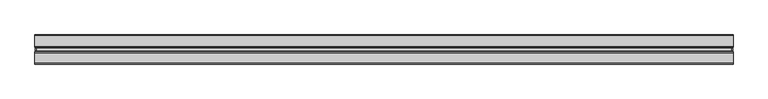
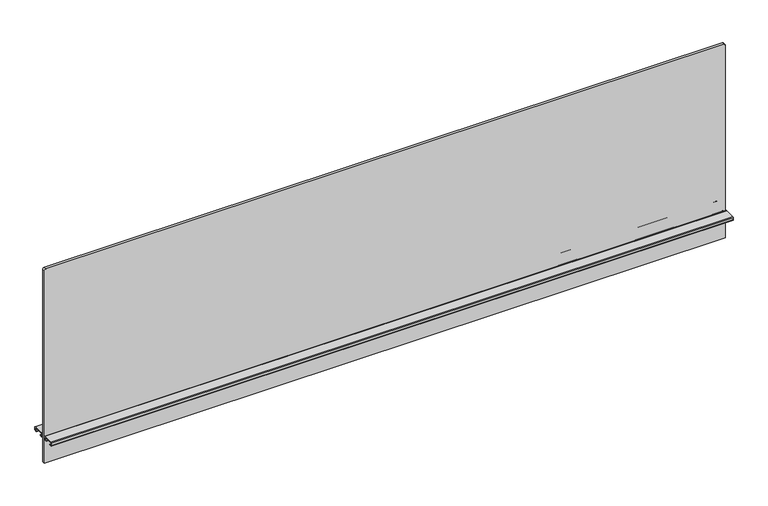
"""IFC4 building model written with IfcOpenShell, lengths in millimetres: furniture geometry, Steelcase - Answer Solution - Panel - Frameless Glass Screen - Recessed : 18H x 72W."""

from ifc_helpers import new_model, si_unit, point, frame, frame_2d, origin, place, context, project, spatial, polyline, circle_curve, trimmed, segment, composite_curve, outline, extrude, source, transform, mapped, element, save


def furniture_66b91132(model_context):
    return source(origin(), model_context, "Body", "SweptSolid", [
        extrude(outline(composite_curve([segment(polyline([(1213.967613, 909.32), (1213.967613, -909.32)]), True, "CONTINUOUS"), segment(trimmed(circle_curve(frame_2d((1210.157613, -909.32)), 3.81), [point((1213.967613, -909.32))], [point((1210.157613, -913.13))], False, "CARTESIAN"), True, "CONTINUOUS"), segment(polyline([(1210.157613, -913.13), (664.565613, -913.13), (664.565613, 913.13), (1210.157613, 913.13)]), True, "CONTINUOUS"), segment(trimmed(circle_curve(frame_2d((1210.157613, 909.32)), 3.81), [point((1210.157613, 913.13))], [point((1213.967613, 909.32))], False, "CARTESIAN"), True, "CONTINUOUS")], self_intersect=False)), frame((0.0, -3.683001, 0.0), z_axis=(0.0, 1.0, 0.0), x_axis=(0.0, 0.0, 1.0)), (0.0, 0.0, 1.0), 7.3660021),
        extrude(outline(composite_curve([segment(polyline([(8.1724496, 743.8644064), (36.0679996, 743.8644064)]), True, "CONTINUOUS"), segment(trimmed(circle_curve(frame_2d((36.0679996, 741.8324064)), 2.032), [point((36.0679996, 743.8644064))], [point((38.0999996, 741.8324064))], False, "CARTESIAN"), True, "CONTINUOUS"), segment(polyline([(38.0999996, 741.8324064), (38.0999996, 735.7364161)]), True, "CONTINUOUS"), segment(trimmed(circle_curve(frame_2d((36.0679996, 735.7364161)), 2.032), [point((38.0999996, 735.7364161))], [point((36.0679996, 733.7044161))], False, "CARTESIAN"), True, "CONTINUOUS"), segment(polyline([(36.0679996, 733.7044161), (30.7784504, 733.7044161), (30.7784504, 734.6187498), (36.1695996, 734.6187498)]), True, "CONTINUOUS"), segment(trimmed(circle_curve(frame_2d((36.1695996, 735.6347498)), 1.016), [point((36.1695996, 734.6187498))], [point((37.1855996, 735.6347498))], True, "CARTESIAN"), True, "CONTINUOUS"), segment(polyline([(37.1855996, 735.6347498), (37.1855996, 741.934)]), True, "CONTINUOUS"), segment(trimmed(circle_curve(frame_2d((36.1695996, 741.934)), 1.016), [point((37.1855996, 741.934))], [point((36.1695996, 742.95))], True, "CARTESIAN"), True, "CONTINUOUS"), segment(polyline([(36.1695996, 742.95), (8.0708496, 742.95)]), True, "CONTINUOUS"), segment(trimmed(circle_curve(frame_2d((8.0708496, 741.934)), 1.016), [point((8.0708496, 742.95))], [point((7.0548496, 741.934))], True, "CARTESIAN"), True, "CONTINUOUS"), segment(polyline([(7.0548496, 741.934), (7.0548496, 735.6347498)]), True, "CONTINUOUS"), segment(trimmed(circle_curve(frame_2d((8.0708496, 735.6347498)), 1.016), [point((7.0548496, 735.6347498))], [point((8.0708496, 734.6187498))], True, "CARTESIAN"), True, "CONTINUOUS"), segment(polyline([(8.0708496, 734.6187498), (13.4619988, 734.6187498), (13.4619988, 733.7044161), (8.1724496, 733.7044161)]), True, "CONTINUOUS"), segment(trimmed(circle_curve(frame_2d((8.1724496, 735.7364161)), 2.032), [point((8.1724496, 733.7044161))], [point((6.1404496, 735.7364161))], False, "CARTESIAN"), True, "CONTINUOUS"), segment(polyline([(6.1404496, 735.7364161), (6.1404496, 741.8324064)]), True, "CONTINUOUS"), segment(trimmed(circle_curve(frame_2d((8.1724496, 741.8324064)), 2.032), [point((6.1404496, 741.8324064))], [point((8.1724496, 743.8644064))], False, "CARTESIAN"), True, "CONTINUOUS")], self_intersect=False)), frame((-914.4, 0.0, 0.0), z_axis=(1.0, 0.0, 0.0), x_axis=(0.0, 1.0, 0.0)), (0.0, 0.0, 1.0), 1828.8),
        extrude(outline(composite_curve([segment(trimmed(circle_curve(frame_2d((-8.1724496, 741.8324064)), 2.032), [point((-8.1724496, 743.8644064))], [point((-6.1404496, 741.8324064))], False, "CARTESIAN"), True, "CONTINUOUS"), segment(polyline([(-6.1404496, 741.8324064), (-6.1404496, 735.7364161)]), True, "CONTINUOUS"), segment(trimmed(circle_curve(frame_2d((-8.1724496, 735.7364161)), 2.032), [point((-6.1404496, 735.7364161))], [point((-8.1724496, 733.7044161))], False, "CARTESIAN"), True, "CONTINUOUS"), segment(polyline([(-8.1724496, 733.7044161), (-13.4619988, 733.7044161), (-13.4619988, 734.6187498), (-8.0708496, 734.6187498)]), True, "CONTINUOUS"), segment(trimmed(circle_curve(frame_2d((-8.0708496, 735.6347498)), 1.016), [point((-8.0708496, 734.6187498))], [point((-7.0548496, 735.6347498))], True, "CARTESIAN"), True, "CONTINUOUS"), segment(polyline([(-7.0548496, 735.6347498), (-7.0548496, 741.934)]), True, "CONTINUOUS"), segment(trimmed(circle_curve(frame_2d((-8.0708496, 741.934)), 1.016), [point((-7.0548496, 741.934))], [point((-8.0708496, 742.95))], True, "CARTESIAN"), True, "CONTINUOUS"), segment(polyline([(-8.0708496, 742.95), (-36.1695996, 742.95)]), True, "CONTINUOUS"), segment(trimmed(circle_curve(frame_2d((-36.1695996, 741.934)), 1.016), [point((-36.1695996, 742.95))], [point((-37.1855996, 741.934))], True, "CARTESIAN"), True, "CONTINUOUS"), segment(polyline([(-37.1855996, 741.934), (-37.1855996, 735.6347498)]), True, "CONTINUOUS"), segment(trimmed(circle_curve(frame_2d((-36.1695996, 735.6347498)), 1.016), [point((-37.1855996, 735.6347498))], [point((-36.1695996, 734.6187498))], True, "CARTESIAN"), True, "CONTINUOUS"), segment(polyline([(-36.1695996, 734.6187498), (-30.7784504, 734.6187498), (-30.7784504, 733.7044161), (-36.0679996, 733.7044161)]), True, "CONTINUOUS"), segment(trimmed(circle_curve(frame_2d((-36.0679996, 735.7364161)), 2.032), [point((-36.0679996, 733.7044161))], [point((-38.0999996, 735.7364161))], False, "CARTESIAN"), True, "CONTINUOUS"), segment(polyline([(-38.0999996, 735.7364161), (-38.0999996, 741.8324064)]), True, "CONTINUOUS"), segment(trimmed(circle_curve(frame_2d((-36.0679996, 741.8324064)), 2.032), [point((-38.0999996, 741.8324064))], [point((-36.0679996, 743.8644064))], False, "CARTESIAN"), True, "CONTINUOUS"), segment(polyline([(-36.0679996, 743.8644064), (-8.1724496, 743.8644064)]), True, "CONTINUOUS")], self_intersect=False)), frame((-914.4, 0.0, 0.0), z_axis=(1.0, 0.0, 0.0), x_axis=(0.0, 1.0, 0.0)), (0.0, 0.0, 1.0), 1828.8),
    ])


if __name__ == "__main__":
    model = new_model("IFC4")
    model_context = context("Model", 3, world=origin())
    ifc_project = project(units=[si_unit("LENGTHUNIT", "METRE", prefix="MILLI")], contexts=[model_context])
    site = spatial("IfcSite", under=ifc_project)
    building = spatial("IfcBuilding", under=site)
    placement = place(None, origin())
    furniture_shape = furniture_66b91132(model_context)
    element("IfcFurniture", 1, ObjectType="Steelcase - Answer Solution - Panel - Frameless Glass Screen - Recessed : 18H x 72W", at=placement, inside=building, context=model_context, shape_type="MappedRepresentation", body=[
        mapped(furniture_shape, transform((0.0, 0.0, 0.0), x_axis=(1.0, 0.0, 0.0), y_axis=(0.0, 1.0, 0.0), z_axis=(0.0, 0.0, 1.0))),
    ])
    save(model, "model.ifc")
